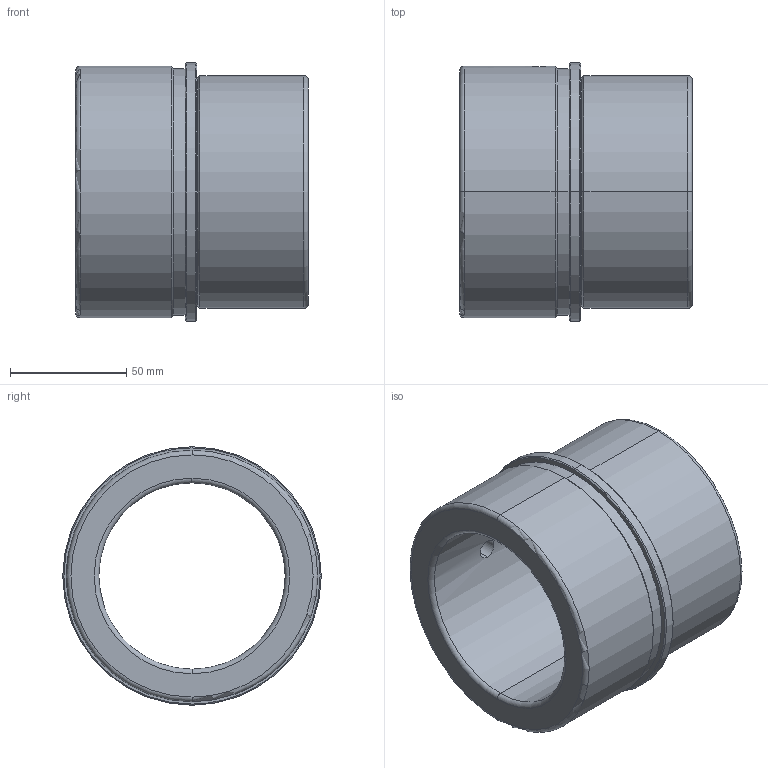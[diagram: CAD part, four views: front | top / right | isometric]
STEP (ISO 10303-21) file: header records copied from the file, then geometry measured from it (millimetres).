
FILE_DESCRIPTION(('CATIA V5 STEP Exchange'),'2;1');
FILE_NAME('C:\Users\Utente\Desktop\IO LAVORO\3D X SITO CF\X SITO\FAMO\FAMO-SF1-C80 x 100.stp','2021-01-06T17:07:37+00:00',('none'),('none'),'CATIA Version 5 Release 20 GA (IN-10)','CATIA V5 STEP AP203','none');
FILE_SCHEMA(('CONFIG_CONTROL_DESIGN'));
Length unit declared in the file: millimetre
Products named in the file (1): FAMO-SF1-C80 x 100
Bounding box: 100 x 111 x 111 mm (x, y, z)
Volume: 348695.6 mm3; surface area: 67580.2 mm2
Topology: 1 solids, 1 shells, 37 faces, 125 edges, 93 vertices
Faces by surface type: cylinder 14, cone 10, torus 8, plane 5
Entity records: 1655 total; most frequent: CARTESIAN_POINT 528, ORIENTED_EDGE 250, DIRECTION 180, EDGE_CURVE 125, AXIS2_PLACEMENT_3D 120, VERTEX_POINT 93, CIRCLE 82, EDGE_LOOP 44
